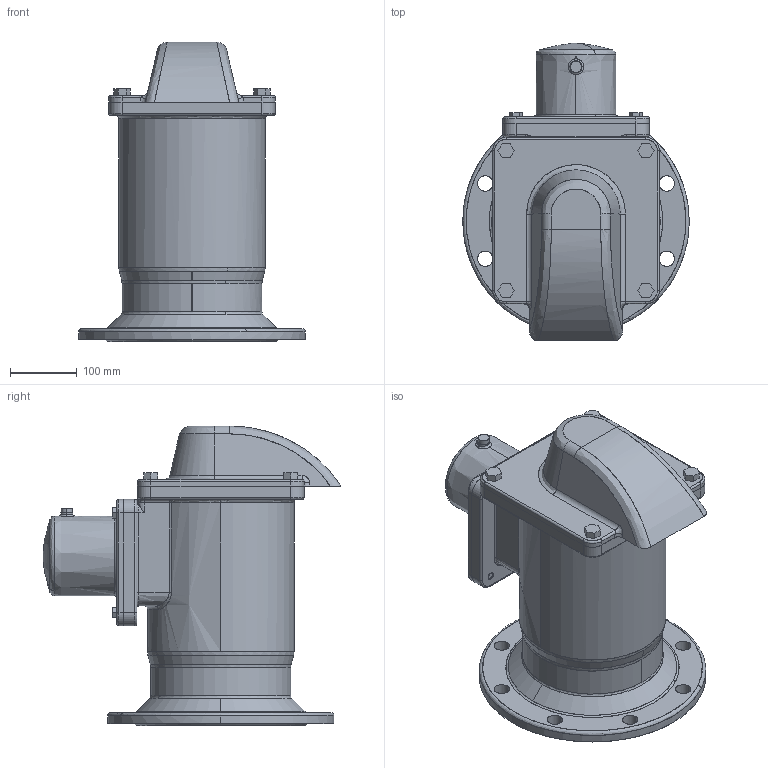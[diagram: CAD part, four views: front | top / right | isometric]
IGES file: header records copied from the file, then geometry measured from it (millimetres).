
Start section: SolidWorks IGES file using analytic representation for surfaces
Global section: file name: C:\Users\Administrator\Desktop\temp\PVT4200-DN200.IGS; native system: SolidWorks 2015; preprocessor: SolidWorks 2015; author: Administrator; date: 170528.102011; units: millimetre
Bounding box: 340 x 447.33 x 450 mm (x, y, z)
Surface area: 1728094.8 mm2 (no closed solid volume)
Topology: 0 solids, 0 shells, 470 faces, 7811 edges, 7796 vertices
Faces by surface type: bspline 253, revolution 217
